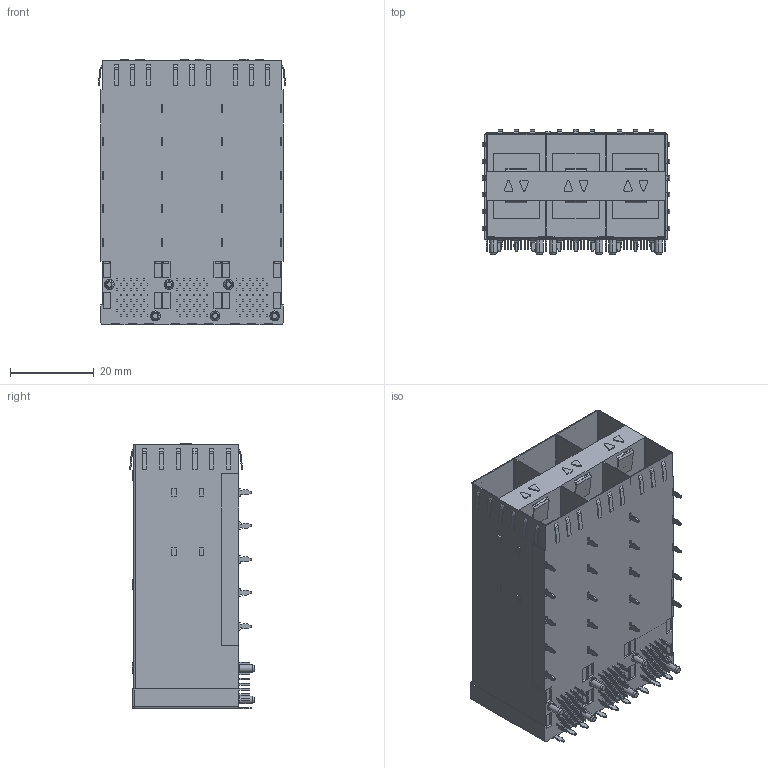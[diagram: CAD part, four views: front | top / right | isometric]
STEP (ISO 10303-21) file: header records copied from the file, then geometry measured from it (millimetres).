
FILE_DESCRIPTION (( 'STEP AP203' ), '1' );
FILE_NAME ('SFP 2X3 囀絳嫖翐 拸堎挴.STEP', '2024-04-07T06:23:01', ( '' ), ( '' ), 'SwSTEP 2.0', 'SolidWorks 2018', '' );
FILE_SCHEMA (( 'CONFIG_CONTROL_DESIGN' ));
Length unit declared in the file: millimetre
Products named in the file (1): SFP 2X3 囀絳嫖翐 拸堎挴
Bounding box: 44.8 x 29.8 x 63.5 mm (x, y, z)
Volume: 35185.2 mm3; surface area: 26121.5 mm2
Topology: 1 solids, 1 shells, 1851 faces, 4922 edges, 3270 vertices
Faces by surface type: plane 1367, cylinder 458, cone 24, sphere 2
Entity records: 57259 total; most frequent: CARTESIAN_POINT 10042, ORIENTED_EDGE 9840, DIRECTION 9564, EDGE_CURVE 4920, LINE 3980, VECTOR 3980, VERTEX_POINT 3270, AXIS2_PLACEMENT_3D 2792
